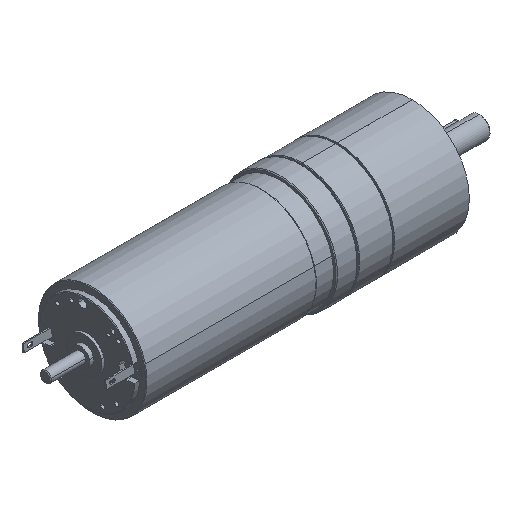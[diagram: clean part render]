
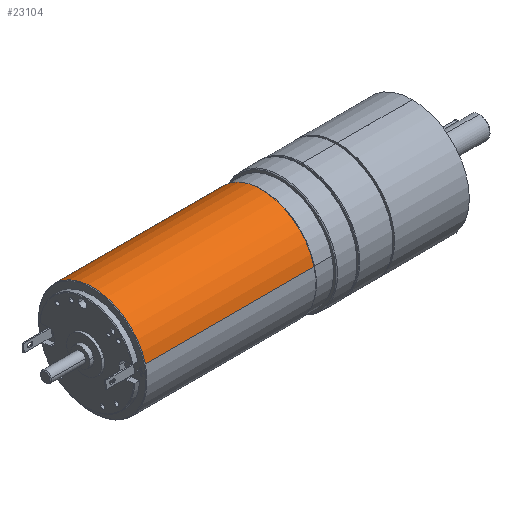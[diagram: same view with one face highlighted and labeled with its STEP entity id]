
A CAD part, isometric view. The second image highlights one B-rep face of the part: STEP entity #23104.
In plain terms, the highlighted cylindrical face has radius 20 mm (diameter 40 mm), a partial arc.
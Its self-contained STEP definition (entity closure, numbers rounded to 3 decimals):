
#108 = ORIENTED_EDGE ( 'NONE', *, *, #24914, .T. ) ;
#684 = VERTEX_POINT ( 'NONE', #25181 ) ;
#3570 = EDGE_CURVE ( 'NONE', #28309, #26868, #6902, .T. ) ;
#5060 = CIRCLE ( 'NONE', #10679, 20. ) ;
#5105 = EDGE_CURVE ( 'NONE', #28309, #22564, #5060, .T. ) ;
#5314 = CARTESIAN_POINT ( 'NONE',  ( 26.8, 0., -20. ) ) ;
#5832 = LINE ( 'NONE', #21210, #23069 ) ;
#6902 = LINE ( 'NONE', #18197, #18861 ) ;
#6982 = DIRECTION ( 'NONE',  ( -1., 0., 0. ) ) ;
#7736 = DIRECTION ( 'NONE',  ( -1., 0., 0. ) ) ;
#7866 = DIRECTION ( 'NONE',  ( -1., 0., 0. ) ) ;
#8637 = FACE_OUTER_BOUND ( 'NONE', #16826, .T. ) ;
#9248 = CARTESIAN_POINT ( 'NONE',  ( 89.1, 0., 20. ) ) ;
#10679 = AXIS2_PLACEMENT_3D ( 'NONE', #12601, #28367, #14876 ) ;
#11015 = CIRCLE ( 'NONE', #21486, 20. ) ;
#12601 = CARTESIAN_POINT ( 'NONE',  ( 89.1, 0., 0. ) ) ;
#13353 = ORIENTED_EDGE ( 'NONE', *, *, #24340, .F. ) ;
#13742 = AXIS2_PLACEMENT_3D ( 'NONE', #27444, #13857, #13951 ) ;
#13857 = DIRECTION ( 'NONE',  ( -1., 0., 0. ) ) ;
#13951 = DIRECTION ( 'NONE',  ( 0., 0., 1. ) ) ;
#14876 = DIRECTION ( 'NONE',  ( 0., 0., 1. ) ) ;
#16826 = EDGE_LOOP ( 'NONE', ( #18518, #21860, #108, #13353 ) ) ;
#18197 = CARTESIAN_POINT ( 'NONE',  ( 0., 0., -20. ) ) ;
#18518 = ORIENTED_EDGE ( 'NONE', *, *, #3570, .F. ) ;
#18861 = VECTOR ( 'NONE', #6982, 1000. ) ;
#21210 = CARTESIAN_POINT ( 'NONE',  ( 0., 0., 20. ) ) ;
#21341 = CARTESIAN_POINT ( 'NONE',  ( 26.8, 0., 0. ) ) ;
#21486 = AXIS2_PLACEMENT_3D ( 'NONE', #21341, #7866, #23585 ) ;
#21860 = ORIENTED_EDGE ( 'NONE', *, *, #5105, .T. ) ;
#22564 = VERTEX_POINT ( 'NONE', #9248 ) ;
#23069 = VECTOR ( 'NONE', #7736, 1000. ) ;
#23104 = ADVANCED_FACE ( 'NONE', ( #8637 ), #29054, .T. ) ;
#23585 = DIRECTION ( 'NONE',  ( 0., 0., 1. ) ) ;
#24340 = EDGE_CURVE ( 'NONE', #26868, #684, #11015, .T. ) ;
#24914 = EDGE_CURVE ( 'NONE', #22564, #684, #5832, .T. ) ;
#25181 = CARTESIAN_POINT ( 'NONE',  ( 26.8, 0., 20. ) ) ;
#26494 = CARTESIAN_POINT ( 'NONE',  ( 89.1, 0., -20. ) ) ;
#26868 = VERTEX_POINT ( 'NONE', #5314 ) ;
#27444 = CARTESIAN_POINT ( 'NONE',  ( 0., 0., 0. ) ) ;
#28309 = VERTEX_POINT ( 'NONE', #26494 ) ;
#28367 = DIRECTION ( 'NONE',  ( -1., 0., 0. ) ) ;
#29054 = CYLINDRICAL_SURFACE ( 'NONE', #13742, 20. ) ;
